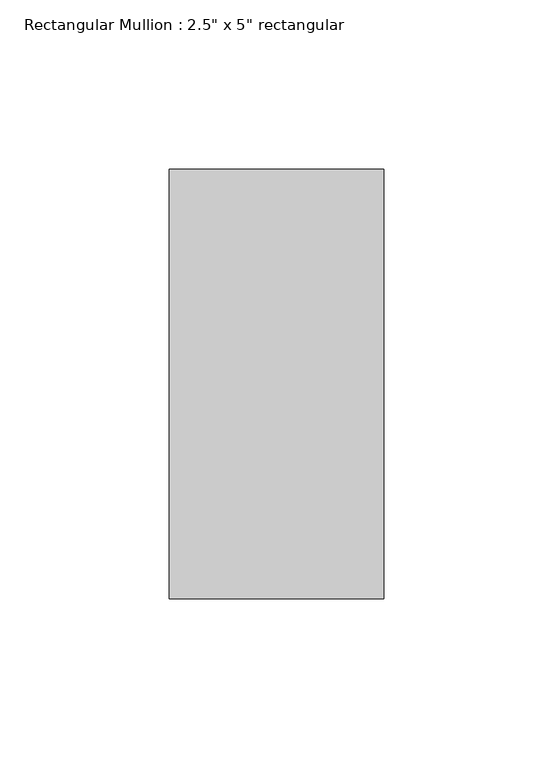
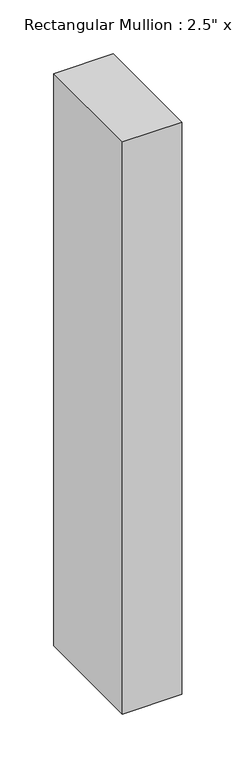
"""IFC4 building model written with IfcOpenShell, lengths in millimetres: member geometry."""

from ifc_helpers import new_model, si_unit, frame, origin, place, context, project, spatial, polyline, outline, extrude, source, transform, mapped, element, save


def member_3996617e(model_context):
    return source(origin(), model_context, "Body", "SweptSolid", [
        extrude(outline(polyline([(31.75, 50.8), (31.75, -76.2), (-31.75, -76.2), (-31.75, 50.8), (31.75, 50.8)])), frame((0.0, 0.0, -647.7), z_axis=(0.0, 0.0, 1.0), x_axis=(1.0, 0.0, 0.0)), (0.0, 0.0, 1.0), 647.7),
    ])


if __name__ == "__main__":
    model = new_model("IFC4")
    model_context = context("Model", 3, world=origin())
    ifc_project = project(units=[si_unit("LENGTHUNIT", "METRE", prefix="MILLI")], contexts=[model_context])
    site = spatial("IfcSite", under=ifc_project)
    building = spatial("IfcBuilding", under=site)
    placement = place(None, origin())
    member_shape = member_3996617e(model_context)
    element("IfcMember", 1, ObjectType="Rectangular Mullion : 2.5\" x 5\" rectangular", at=placement, inside=building, context=model_context, shape_type="MappedRepresentation", body=[
        mapped(member_shape, transform((0.0, 0.0, 0.0), x_axis=(1.0, 0.0, 0.0), y_axis=(0.0, 1.0, 0.0), z_axis=(0.0, 0.0, 1.0))),
    ])
    save(model, "model.ifc")
